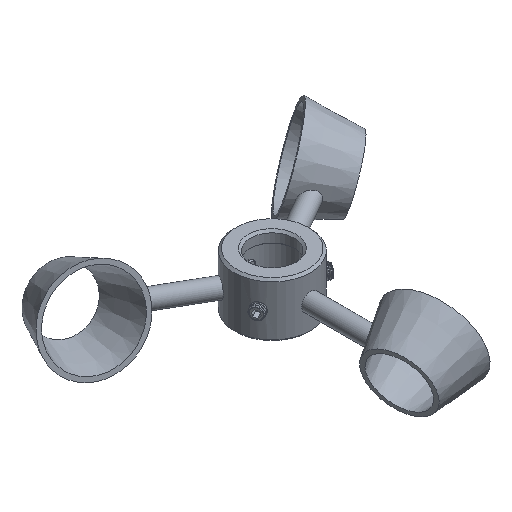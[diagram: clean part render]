
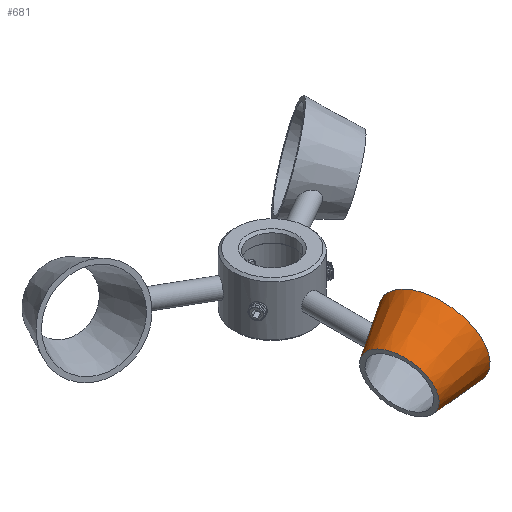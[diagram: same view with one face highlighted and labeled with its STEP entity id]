
A CAD part, isometric view. The second image highlights one B-rep face of the part: STEP entity #681.
In plain terms, the highlighted conical face has half-angle 15.255 degrees and reference radius 21.073 mm.
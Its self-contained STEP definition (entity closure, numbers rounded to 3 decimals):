
#61 = DIRECTION ( 'NONE',  ( 0., 0., 1. ) ) ;
#78 = AXIS2_PLACEMENT_3D ( 'NONE', #1565, #1880, #180 ) ;
#180 = DIRECTION ( 'NONE',  ( 0., 1., 0. ) ) ;
#230 = FACE_OUTER_BOUND ( 'NONE', #1876, .T. ) ;
#435 = EDGE_CURVE ( 'NONE', #772, #772, #1177, .T. ) ;
#456 = CARTESIAN_POINT ( 'NONE',  ( 0., 15.073, -22. ) ) ;
#540 = EDGE_CURVE ( 'NONE', #1672, #1672, #1373, .T. ) ;
#681 = ADVANCED_FACE ( 'NONE', ( #1617, #230 ), #1563, .T. ) ;
#708 = CARTESIAN_POINT ( 'NONE',  ( 0., 0., -22. ) ) ;
#772 = VERTEX_POINT ( 'NONE', #785 ) ;
#785 = CARTESIAN_POINT ( 'NONE',  ( 0., 21.073, 0. ) ) ;
#824 = ORIENTED_EDGE ( 'NONE', *, *, #540, .F. ) ;
#833 = AXIS2_PLACEMENT_3D ( 'NONE', #708, #1312, #847 ) ;
#847 = DIRECTION ( 'NONE',  ( 0., 1., 0. ) ) ;
#964 = EDGE_LOOP ( 'NONE', ( #824 ) ) ;
#1170 = CARTESIAN_POINT ( 'NONE',  ( 0., 0., 0. ) ) ;
#1177 = CIRCLE ( 'NONE', #78, 21.073 ) ;
#1242 = AXIS2_PLACEMENT_3D ( 'NONE', #1170, #61, #1747 ) ;
#1312 = DIRECTION ( 'NONE',  ( 0., 0., -1. ) ) ;
#1373 = CIRCLE ( 'NONE', #833, 15.073 ) ;
#1563 = CONICAL_SURFACE ( 'NONE', #1242, 21.073, 0.266 ) ;
#1565 = CARTESIAN_POINT ( 'NONE',  ( 0., 0., 0. ) ) ;
#1617 = FACE_BOUND ( 'NONE', #964, .T. ) ;
#1672 = VERTEX_POINT ( 'NONE', #456 ) ;
#1677 = ORIENTED_EDGE ( 'NONE', *, *, #435, .T. ) ;
#1747 = DIRECTION ( 'NONE',  ( 0., -1., 0. ) ) ;
#1876 = EDGE_LOOP ( 'NONE', ( #1677 ) ) ;
#1880 = DIRECTION ( 'NONE',  ( 0., 0., -1. ) ) ;
